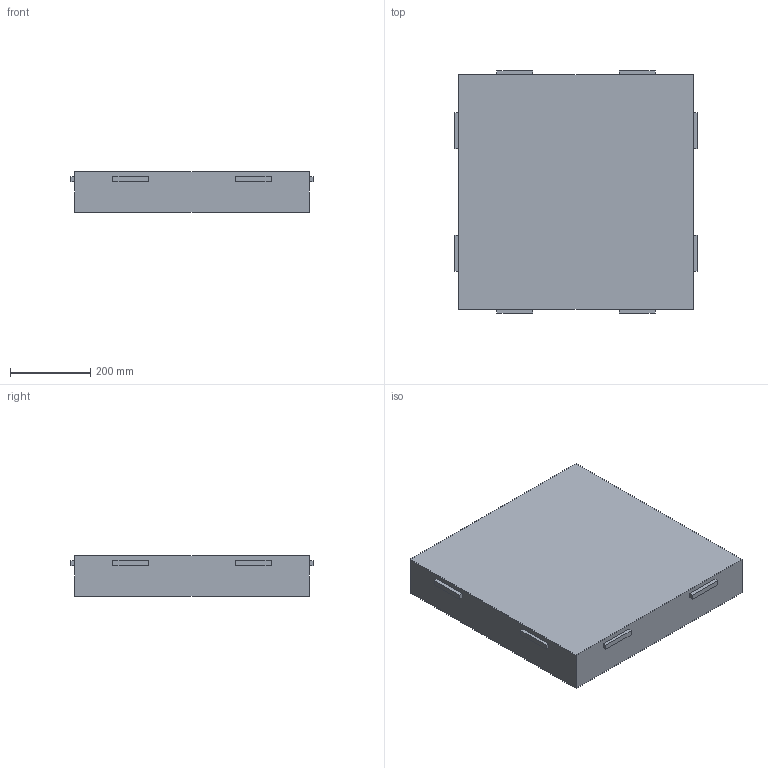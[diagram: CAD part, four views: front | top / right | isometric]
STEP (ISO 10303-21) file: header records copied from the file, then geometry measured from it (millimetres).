
FILE_DESCRIPTION(/* description */ (''),/* implementation_level */ '2;1');
FILE_NAME(/* name */ 'PET KEYS_2x2_3',/* time_stamp */ '2024-10-14T11:04:33-05:00',/* author */ (''),/* organization */ (''),/* preprocessor_version */ 'ST-DEVELOPER v19.2',/* originating_system */ 'Rhino 8.4',/* authorisation */ '');
FILE_SCHEMA (('CONFIG_CONTROL_DESIGN'));
Length unit declared in the file: inch
Products named in the file (1): Document
Bounding box: 603.25 x 603.25 x 101.6 mm (x, y, z)
Volume: 34761059.5 mm3; surface area: 935482 mm2
Topology: 1 solids, 1 shells, 46 faces, 108 edges, 72 vertices
Faces by surface type: plane 46
Entity records: 1226 total; most frequent: CARTESIAN_POINT 336, ORIENTED_EDGE 216, EDGE_CURVE 108, B_SPLINE_CURVE_WITH_KNOTS 108, VERTEX_POINT 72, EDGE_LOOP 54, DIRECTION 50, AXIS2_PLACEMENT_3D 48
